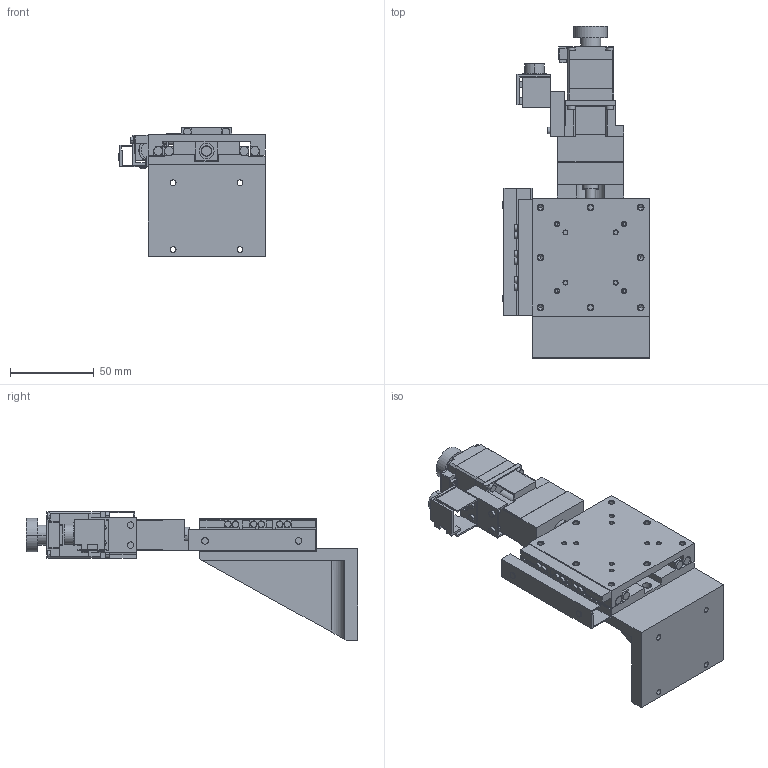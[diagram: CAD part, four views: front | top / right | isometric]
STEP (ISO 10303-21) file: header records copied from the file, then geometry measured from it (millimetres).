
FILE_DESCRIPTION(('STEP AP203'),'1');
FILE_NAME('C:/3D-Trans/3D_PZG715M-L□-C4+240125.step','2024-02-27T00:53:43',(' '),(' '),'Spatial InterOp 3D',' ',' ');
FILE_SCHEMA(('CONFIG_CONTROL_DESIGN'));
Length unit declared in the file: millimetre
Products named in the file (7): 1; 2; 3; 4; 5; 6; 7
Bounding box: 87.4 x 198.5 x 77 mm (x, y, z)
Volume: 229076.1 mm3; surface area: 91667.9 mm2
Topology: 7 solids, 7 shells, 798 faces, 2063 edges, 1313 vertices
Faces by surface type: plane 461, cylinder 257, cone 76, sphere 4
Entity records: 24701 total; most frequent: CARTESIAN_POINT 4345, DIRECTION 4283, ORIENTED_EDGE 4078, EDGE_CURVE 2039, AXIS2_PLACEMENT_3D 1447, LINE 1389, VECTOR 1389, VERTEX_POINT 1313
